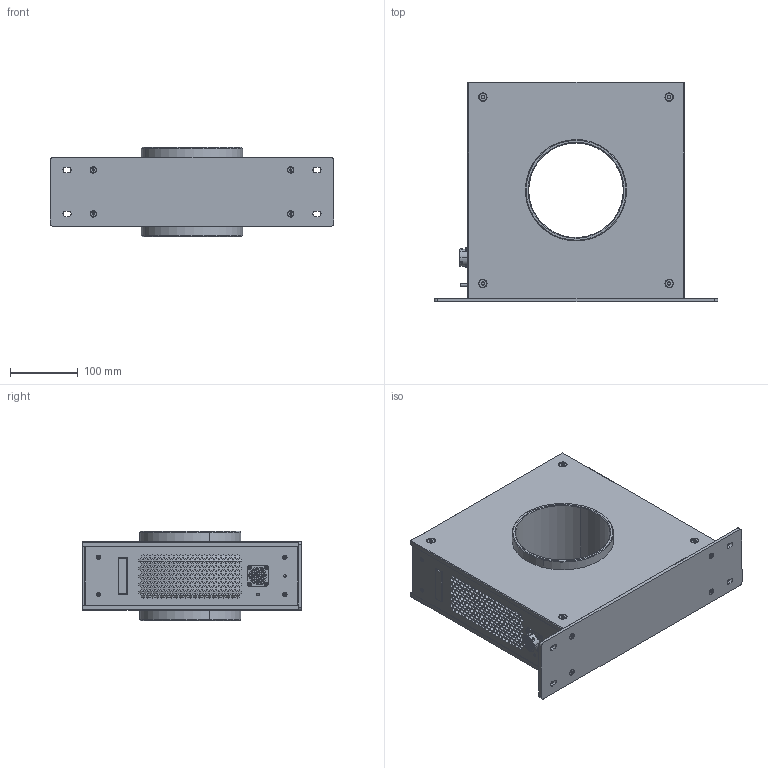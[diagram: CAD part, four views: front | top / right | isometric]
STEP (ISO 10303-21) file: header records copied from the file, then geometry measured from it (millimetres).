
FILE_DESCRIPTION (( 'STEP AP214' ), '1' );
FILE_NAME ('1221100003_DR10000.STEP', '2020-08-18T14:14:48', ( '' ), ( '' ), 'SwSTEP 2.0', 'SolidWorks 2019', '' );
FILE_SCHEMA (( 'AUTOMOTIVE_DESIGN' ));
Length unit declared in the file: millimetre
Products named in the file (1): 1221100003_DR10000
Bounding box: 420 x 325 x 132 mm (x, y, z)
Surface area: 721448.1 mm2 (no closed solid volume)
Topology: 0 solids, 46 shells, 4771 faces, 14663 edges, 9905 vertices
Faces by surface type: plane 4370, cylinder 312, cone 73, torus 12, sphere 4
Entity records: 211222 total; most frequent: CARTESIAN_POINT 30054, DIRECTION 25212, ORIENTED_EDGE 24118, EDGE_CURVE 14655, VECTOR 13432, LINE 13432, VERTEX_POINT 9905, AXIS2_PLACEMENT_3D 5890
